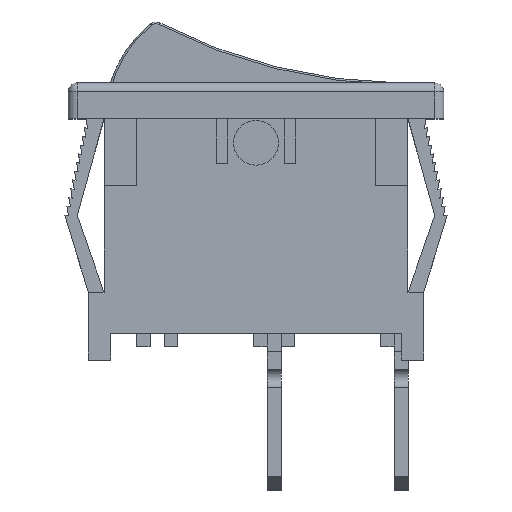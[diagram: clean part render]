
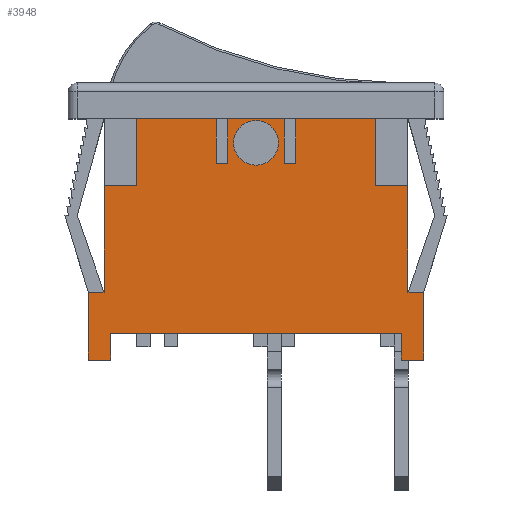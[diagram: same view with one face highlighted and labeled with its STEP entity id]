
A CAD part, top view. The second image highlights one B-rep face of the part: STEP entity #3948.
In plain terms, the highlighted planar face has unit normal (0, 0, 1).
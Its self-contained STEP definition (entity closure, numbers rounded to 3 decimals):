
#48=FACE_BOUND('',#1628,.T.);
#164=PLANE('',#4257);
#381=LINE('',#5841,#894);
#561=LINE('',#6193,#1074);
#564=LINE('',#6199,#1077);
#568=LINE('',#6207,#1081);
#571=LINE('',#6213,#1084);
#608=LINE('',#6290,#1121);
#612=LINE('',#6298,#1125);
#617=LINE('',#6309,#1130);
#621=LINE('',#6317,#1134);
#626=LINE('',#6327,#1139);
#627=LINE('',#6329,#1140);
#628=LINE('',#6331,#1141);
#629=LINE('',#6333,#1142);
#630=LINE('',#6335,#1143);
#631=LINE('',#6337,#1144);
#632=LINE('',#6339,#1145);
#633=LINE('',#6341,#1146);
#634=LINE('',#6342,#1147);
#635=LINE('',#6344,#1148);
#636=LINE('',#6346,#1149);
#637=LINE('',#6347,#1150);
#638=LINE('',#6349,#1151);
#639=LINE('',#6351,#1152);
#640=LINE('',#6352,#1153);
#894=VECTOR('',#4713,10.);
#1074=VECTOR('',#4999,10.);
#1077=VECTOR('',#5004,10.);
#1081=VECTOR('',#5012,10.);
#1084=VECTOR('',#5017,10.);
#1121=VECTOR('',#5074,10.);
#1125=VECTOR('',#5080,10.);
#1130=VECTOR('',#5089,10.);
#1134=VECTOR('',#5095,10.);
#1139=VECTOR('',#5104,10.);
#1140=VECTOR('',#5105,10.);
#1141=VECTOR('',#5106,10.);
#1142=VECTOR('',#5107,10.);
#1143=VECTOR('',#5108,10.);
#1144=VECTOR('',#5109,10.);
#1145=VECTOR('',#5110,10.);
#1146=VECTOR('',#5111,10.);
#1147=VECTOR('',#5112,10.);
#1148=VECTOR('',#5113,10.);
#1149=VECTOR('',#5114,10.);
#1150=VECTOR('',#5115,10.);
#1151=VECTOR('',#5116,10.);
#1152=VECTOR('',#5117,10.);
#1153=VECTOR('',#5118,10.);
#1409=FACE_OUTER_BOUND('',#1627,.T.);
#1627=EDGE_LOOP('',(#3378,#3379,#3380,#3381,#3382,#3383,#3384,#3385,#3386,
#3387,#3388,#3389,#3390,#3391,#3392,#3393,#3394,#3395,#3396,#3397,#3398,
#3399,#3400,#3401));
#1628=EDGE_LOOP('',(#3402));
#1743=CIRCLE('',#4258,1.25);
#1900=VERTEX_POINT('',#5838);
#1901=VERTEX_POINT('',#5840);
#2020=VERTEX_POINT('',#6192);
#2022=VERTEX_POINT('',#6198);
#2024=VERTEX_POINT('',#6206);
#2026=VERTEX_POINT('',#6212);
#2055=VERTEX_POINT('',#6288);
#2056=VERTEX_POINT('',#6289);
#2059=VERTEX_POINT('',#6297);
#2062=VERTEX_POINT('',#6307);
#2063=VERTEX_POINT('',#6308);
#2066=VERTEX_POINT('',#6316);
#2069=VERTEX_POINT('',#6326);
#2070=VERTEX_POINT('',#6328);
#2071=VERTEX_POINT('',#6330);
#2072=VERTEX_POINT('',#6332);
#2073=VERTEX_POINT('',#6334);
#2074=VERTEX_POINT('',#6336);
#2075=VERTEX_POINT('',#6338);
#2076=VERTEX_POINT('',#6340);
#2077=VERTEX_POINT('',#6343);
#2078=VERTEX_POINT('',#6345);
#2079=VERTEX_POINT('',#6348);
#2080=VERTEX_POINT('',#6350);
#2081=VERTEX_POINT('',#6353);
#2315=EDGE_CURVE('',#1901,#1900,#381,.T.);
#2495=EDGE_CURVE('',#1900,#2020,#561,.T.);
#2498=EDGE_CURVE('',#2020,#2022,#564,.T.);
#2502=EDGE_CURVE('',#2024,#1901,#568,.T.);
#2505=EDGE_CURVE('',#2026,#2024,#571,.T.);
#2543=EDGE_CURVE('',#2055,#2056,#608,.T.);
#2547=EDGE_CURVE('',#2056,#2059,#612,.T.);
#2552=EDGE_CURVE('',#2062,#2063,#617,.T.);
#2556=EDGE_CURVE('',#2063,#2066,#621,.T.);
#2561=EDGE_CURVE('',#2059,#2069,#626,.T.);
#2562=EDGE_CURVE('',#2069,#2070,#627,.T.);
#2563=EDGE_CURVE('',#2070,#2071,#628,.T.);
#2564=EDGE_CURVE('',#2071,#2072,#629,.T.);
#2565=EDGE_CURVE('',#2072,#2073,#630,.T.);
#2566=EDGE_CURVE('',#2073,#2074,#631,.T.);
#2567=EDGE_CURVE('',#2074,#2075,#632,.T.);
#2568=EDGE_CURVE('',#2075,#2076,#633,.T.);
#2569=EDGE_CURVE('',#2076,#2062,#634,.T.);
#2570=EDGE_CURVE('',#2066,#2077,#635,.T.);
#2571=EDGE_CURVE('',#2077,#2078,#636,.T.);
#2572=EDGE_CURVE('',#2078,#2026,#637,.T.);
#2573=EDGE_CURVE('',#2022,#2079,#638,.T.);
#2574=EDGE_CURVE('',#2079,#2080,#639,.T.);
#2575=EDGE_CURVE('',#2080,#2055,#640,.T.);
#2576=EDGE_CURVE('',#2081,#2081,#1743,.T.);
#3378=ORIENTED_EDGE('',*,*,#2543,.T.);
#3379=ORIENTED_EDGE('',*,*,#2547,.T.);
#3380=ORIENTED_EDGE('',*,*,#2561,.T.);
#3381=ORIENTED_EDGE('',*,*,#2562,.T.);
#3382=ORIENTED_EDGE('',*,*,#2563,.T.);
#3383=ORIENTED_EDGE('',*,*,#2564,.T.);
#3384=ORIENTED_EDGE('',*,*,#2565,.T.);
#3385=ORIENTED_EDGE('',*,*,#2566,.T.);
#3386=ORIENTED_EDGE('',*,*,#2567,.T.);
#3387=ORIENTED_EDGE('',*,*,#2568,.T.);
#3388=ORIENTED_EDGE('',*,*,#2569,.T.);
#3389=ORIENTED_EDGE('',*,*,#2552,.T.);
#3390=ORIENTED_EDGE('',*,*,#2556,.T.);
#3391=ORIENTED_EDGE('',*,*,#2570,.T.);
#3392=ORIENTED_EDGE('',*,*,#2571,.T.);
#3393=ORIENTED_EDGE('',*,*,#2572,.T.);
#3394=ORIENTED_EDGE('',*,*,#2505,.T.);
#3395=ORIENTED_EDGE('',*,*,#2502,.T.);
#3396=ORIENTED_EDGE('',*,*,#2315,.T.);
#3397=ORIENTED_EDGE('',*,*,#2495,.T.);
#3398=ORIENTED_EDGE('',*,*,#2498,.T.);
#3399=ORIENTED_EDGE('',*,*,#2573,.T.);
#3400=ORIENTED_EDGE('',*,*,#2574,.T.);
#3401=ORIENTED_EDGE('',*,*,#2575,.T.);
#3402=ORIENTED_EDGE('',*,*,#2576,.T.);
#3948=ADVANCED_FACE('',(#1409,#48),#164,.T.);
#4257=AXIS2_PLACEMENT_3D('',#6325,#5102,#5103);
#4258=AXIS2_PLACEMENT_3D('',#6354,#5119,#5120);
#4713=DIRECTION('',(1.,0.,0.));
#4999=DIRECTION('',(0.,-1.,0.));
#5004=DIRECTION('',(1.,0.,0.));
#5012=DIRECTION('',(0.,1.,0.));
#5017=DIRECTION('',(1.,0.,0.));
#5074=DIRECTION('',(-1.,0.,0.));
#5080=DIRECTION('',(0.,1.,0.));
#5089=DIRECTION('',(0.,-1.,0.));
#5095=DIRECTION('',(-1.,0.,0.));
#5102=DIRECTION('center_axis',(0.,0.,1.));
#5103=DIRECTION('ref_axis',(1.,0.,0.));
#5104=DIRECTION('',(-1.,0.,0.));
#5105=DIRECTION('',(0.,-1.,0.));
#5106=DIRECTION('',(-1.,0.,0.));
#5107=DIRECTION('',(0.,1.,0.));
#5108=DIRECTION('',(-1.,0.,0.));
#5109=DIRECTION('',(0.,-1.,0.));
#5110=DIRECTION('',(-1.,0.,0.));
#5111=DIRECTION('',(0.,1.,0.));
#5112=DIRECTION('',(-1.,0.,0.));
#5113=DIRECTION('',(0.,-1.,0.));
#5114=DIRECTION('',(-1.,0.,0.));
#5115=DIRECTION('',(0.,-1.,0.));
#5116=DIRECTION('',(0.,1.,0.));
#5117=DIRECTION('',(-1.,0.,0.));
#5118=DIRECTION('',(0.,1.,0.));
#5119=DIRECTION('center_axis',(0.,0.,-1.));
#5120=DIRECTION('ref_axis',(1.,0.,0.));
#5838=CARTESIAN_POINT('',(16.625,-12.,12.85));
#5840=CARTESIAN_POINT('',(0.375,-12.,12.85));
#5841=CARTESIAN_POINT('',(-0.875,-12.,12.85));
#6192=CARTESIAN_POINT('',(16.625,-13.5,12.85));
#6193=CARTESIAN_POINT('',(16.625,-12.,12.85));
#6198=CARTESIAN_POINT('',(17.875,-13.5,12.85));
#6199=CARTESIAN_POINT('',(16.625,-13.5,12.85));
#6206=CARTESIAN_POINT('',(0.375,-13.5,12.85));
#6207=CARTESIAN_POINT('',(0.375,-13.5,12.85));
#6212=CARTESIAN_POINT('',(-0.875,-13.5,12.85));
#6213=CARTESIAN_POINT('',(-0.875,-13.5,12.85));
#6288=CARTESIAN_POINT('',(17.,-3.75,12.85));
#6289=CARTESIAN_POINT('',(15.2,-3.75,12.85));
#6290=CARTESIAN_POINT('',(11.85,-3.75,12.85));
#6297=CARTESIAN_POINT('',(15.2,0.,12.85));
#6298=CARTESIAN_POINT('',(15.2,-3.,12.85));
#6307=CARTESIAN_POINT('',(1.8,0.,12.85));
#6308=CARTESIAN_POINT('',(1.8,-3.75,12.85));
#6309=CARTESIAN_POINT('',(1.8,-4.875,12.85));
#6316=CARTESIAN_POINT('',(0.,-3.75,12.85));
#6317=CARTESIAN_POINT('',(4.25,-3.75,12.85));
#6325=CARTESIAN_POINT('Origin',(8.5,-6.,12.85));
#6326=CARTESIAN_POINT('',(10.725,0.,12.85));
#6327=CARTESIAN_POINT('',(17.,0.,12.85));
#6328=CARTESIAN_POINT('',(10.725,-2.5,12.85));
#6329=CARTESIAN_POINT('',(10.725,-4.25,12.85));
#6330=CARTESIAN_POINT('',(10.075,-2.5,12.85));
#6331=CARTESIAN_POINT('',(9.288,-2.5,12.85));
#6332=CARTESIAN_POINT('',(10.075,0.,12.85));
#6333=CARTESIAN_POINT('',(10.075,-3.,12.85));
#6334=CARTESIAN_POINT('',(6.925,0.,12.85));
#6335=CARTESIAN_POINT('',(17.,0.,12.85));
#6336=CARTESIAN_POINT('',(6.925,-2.5,12.85));
#6337=CARTESIAN_POINT('',(6.925,-4.25,12.85));
#6338=CARTESIAN_POINT('',(6.275,-2.5,12.85));
#6339=CARTESIAN_POINT('',(7.388,-2.5,12.85));
#6340=CARTESIAN_POINT('',(6.275,0.,12.85));
#6341=CARTESIAN_POINT('',(6.275,-3.,12.85));
#6342=CARTESIAN_POINT('',(17.,0.,12.85));
#6343=CARTESIAN_POINT('',(0.,-9.7,12.85));
#6344=CARTESIAN_POINT('',(0.,0.,12.85));
#6345=CARTESIAN_POINT('',(-0.875,-9.7,12.85));
#6346=CARTESIAN_POINT('',(0.,-9.7,12.85));
#6347=CARTESIAN_POINT('',(-0.875,-9.7,12.85));
#6348=CARTESIAN_POINT('',(17.875,-9.7,12.85));
#6349=CARTESIAN_POINT('',(17.875,-13.5,12.85));
#6350=CARTESIAN_POINT('',(17.,-9.7,12.85));
#6351=CARTESIAN_POINT('',(17.875,-9.7,12.85));
#6352=CARTESIAN_POINT('',(17.,-12.,12.85));
#6353=CARTESIAN_POINT('',(7.25,-1.35,12.85));
#6354=CARTESIAN_POINT('Origin',(8.5,-1.35,12.85));
